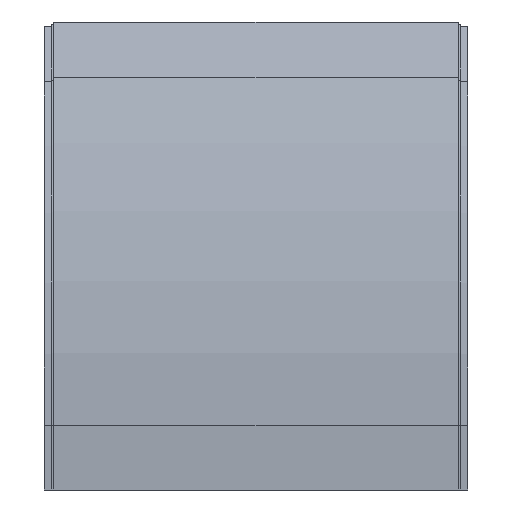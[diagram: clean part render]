
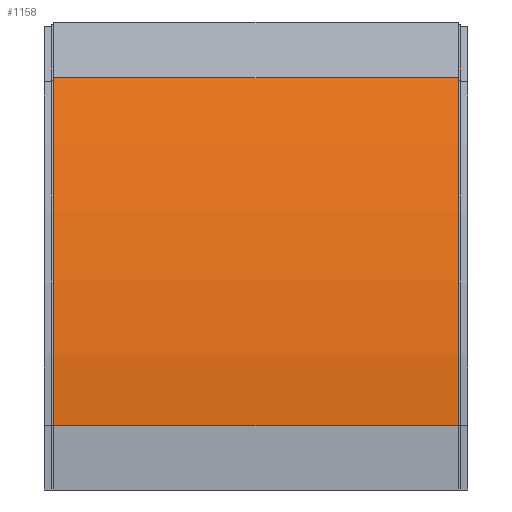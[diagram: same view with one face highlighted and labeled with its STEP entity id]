
A CAD part, front view. The second image highlights one B-rep face of the part: STEP entity #1158.
In plain terms, the highlighted cylindrical face has radius 568.25 mm (diameter 1136.5 mm), a partial arc.
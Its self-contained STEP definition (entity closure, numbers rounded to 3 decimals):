
#48 = DIRECTION ( 'NONE',  ( 0., 0., 1. ) ) ;
#119 = VECTOR ( 'NONE', #1036, 1000. ) ;
#149 = CIRCLE ( 'NONE', #1101, 568.25 ) ;
#187 = DIRECTION ( 'NONE',  ( 0., 0., 1. ) ) ;
#191 = VECTOR ( 'NONE', #1002, 1000. ) ;
#229 = ORIENTED_EDGE ( 'NONE', *, *, #565, .T. ) ;
#247 = EDGE_CURVE ( 'NONE', #1344, #1245, #677, .T. ) ;
#261 = VERTEX_POINT ( 'NONE', #878 ) ;
#414 = EDGE_CURVE ( 'NONE', #496, #261, #493, .T. ) ;
#463 = DIRECTION ( 'NONE',  ( -1., 0., 0. ) ) ;
#476 = CARTESIAN_POINT ( 'NONE',  ( -165.1, 500., 52.5 ) ) ;
#493 = LINE ( 'NONE', #704, #119 ) ;
#496 = VERTEX_POINT ( 'NONE', #1250 ) ;
#565 = EDGE_CURVE ( 'NONE', #1245, #261, #981, .T. ) ;
#600 = EDGE_LOOP ( 'NONE', ( #1133, #229, #912, #1154 ) ) ;
#652 = DIRECTION ( 'NONE',  ( 0., 0., 1. ) ) ;
#673 = CYLINDRICAL_SURFACE ( 'NONE', #1280, 568.25 ) ;
#677 = LINE ( 'NONE', #1318, #191 ) ;
#704 = CARTESIAN_POINT ( 'NONE',  ( -165.1, 7.881, 336.625 ) ) ;
#819 = EDGE_CURVE ( 'NONE', #1344, #496, #149, .T. ) ;
#832 = CARTESIAN_POINT ( 'NONE',  ( 165.1, 500., 52.5 ) ) ;
#867 = CARTESIAN_POINT ( 'NONE',  ( 0., 500., 52.5 ) ) ;
#878 = CARTESIAN_POINT ( 'NONE',  ( 165.1, 7.881, 336.625 ) ) ;
#912 = ORIENTED_EDGE ( 'NONE', *, *, #414, .F. ) ;
#977 = DIRECTION ( 'NONE',  ( -1., 0., 0. ) ) ;
#981 = CIRCLE ( 'NONE', #1187, 568.25 ) ;
#1002 = DIRECTION ( 'NONE',  ( 1., 0., 0. ) ) ;
#1014 = CARTESIAN_POINT ( 'NONE',  ( -165.1, -68.25, 52.5 ) ) ;
#1036 = DIRECTION ( 'NONE',  ( 1., 0., 0. ) ) ;
#1061 = DIRECTION ( 'NONE',  ( -1., 0., 0. ) ) ;
#1085 = CARTESIAN_POINT ( 'NONE',  ( 165.1, -68.25, 52.5 ) ) ;
#1101 = AXIS2_PLACEMENT_3D ( 'NONE', #476, #463, #48 ) ;
#1133 = ORIENTED_EDGE ( 'NONE', *, *, #247, .T. ) ;
#1154 = ORIENTED_EDGE ( 'NONE', *, *, #819, .F. ) ;
#1158 = ADVANCED_FACE ( 'NONE', ( #1285 ), #673, .T. ) ;
#1187 = AXIS2_PLACEMENT_3D ( 'NONE', #832, #1061, #187 ) ;
#1245 = VERTEX_POINT ( 'NONE', #1085 ) ;
#1250 = CARTESIAN_POINT ( 'NONE',  ( -165.1, 7.881, 336.625 ) ) ;
#1280 = AXIS2_PLACEMENT_3D ( 'NONE', #867, #977, #652 ) ;
#1285 = FACE_OUTER_BOUND ( 'NONE', #600, .T. ) ;
#1318 = CARTESIAN_POINT ( 'NONE',  ( -165.1, -68.25, 52.5 ) ) ;
#1344 = VERTEX_POINT ( 'NONE', #1014 ) ;
